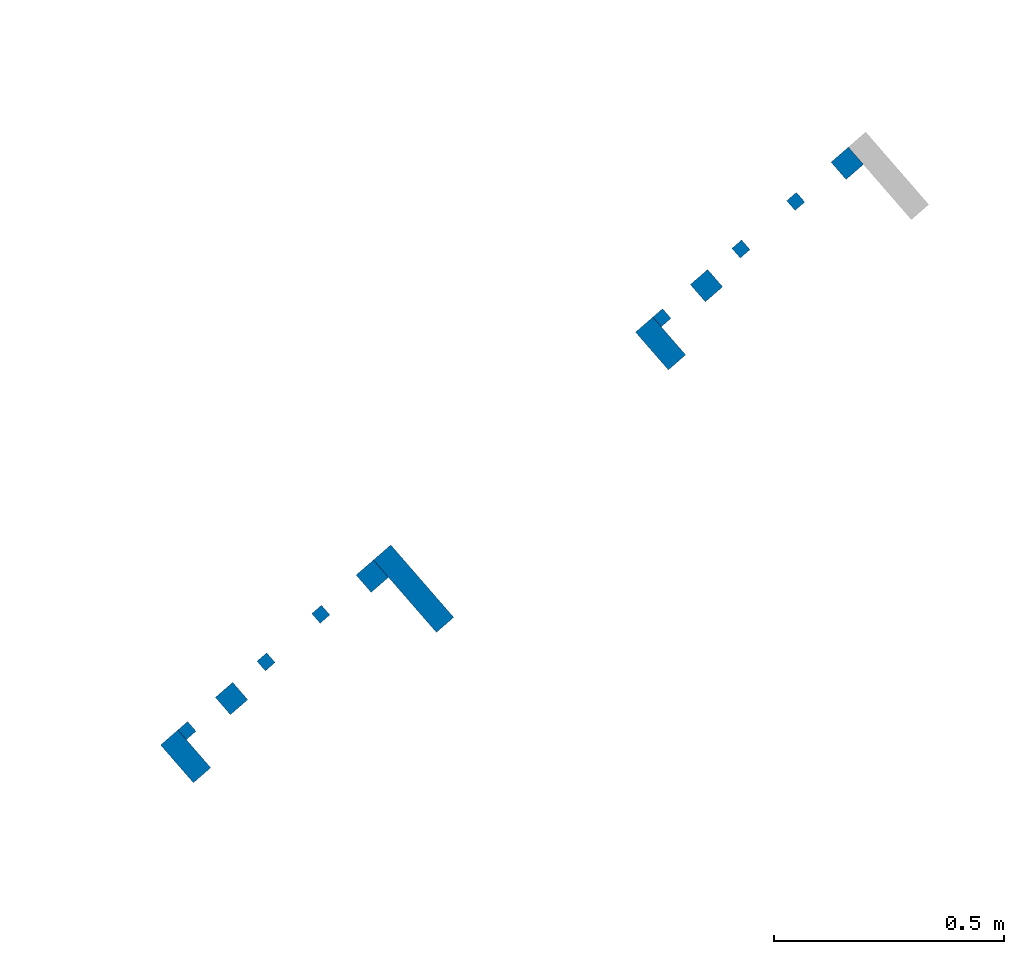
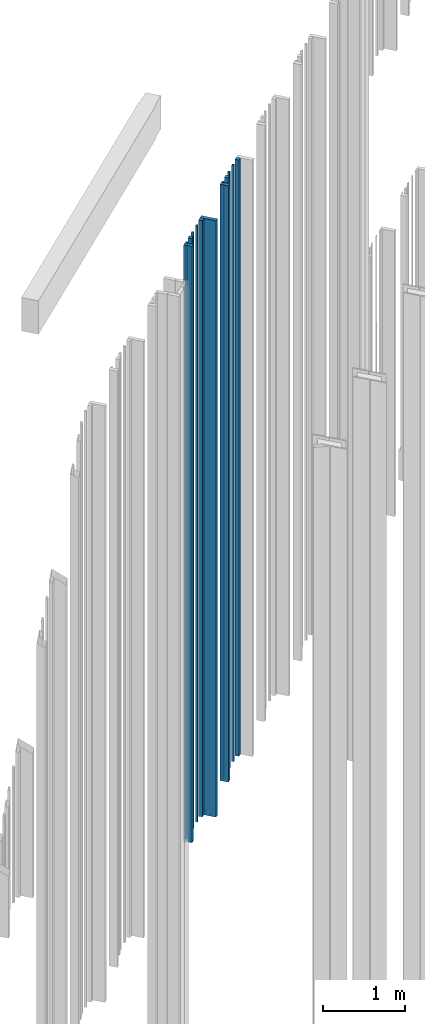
# One storey, part 247 of 390: 13 walls.
"""IFC2X3 building model written with IfcOpenShell, lengths in millimetres."""

from ifc_helpers import new_model, entity, si_unit, converted_unit, derived_unit, money_unit, direction, frame, origin_with_axes, place, context, subcontext, project, spatial, faceted_brep, material, type_object, element, save


model = new_model("IFC2X3")

# Units and contexts
model_context = context("Model", 3, precision=1e-05, world=origin_with_axes(), true_north=direction((0.0, 1.0)))
body_context = subcontext(model_context, "Body", "Model", "MODEL_VIEW")
ifc_project = project(units=[si_unit("LENGTHUNIT", "METRE", prefix="MILLI"), si_unit("AREAUNIT", "SQUARE_METRE"), si_unit("VOLUMEUNIT", "CUBIC_METRE"), converted_unit("PLANEANGLEUNIT", "DEGREE", entity("IfcPlaneAngleMeasure", 0.0174532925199), si_unit("PLANEANGLEUNIT", "RADIAN"), dimensions=[0, 0, 0, 0, 0, 0, 0]), si_unit("SOLIDANGLEUNIT", "STERADIAN"), money_unit("EUR"), converted_unit("TIMEUNIT", "Year", entity("IfcTimeMeasure", 31556926.0), si_unit("TIMEUNIT", "SECOND"), dimensions=[0, 0, 1, 0, 0, 0, 0]), si_unit("MASSUNIT", "GRAM", prefix="KILO"), si_unit("THERMODYNAMICTEMPERATUREUNIT", "DEGREE_CELSIUS"), si_unit("LUMINOUSINTENSITYUNIT", "LUMEN"), si_unit("ENERGYUNIT", "JOULE", prefix="MEGA"), derived_unit("THERMALCONDUCTANCEUNIT", [(si_unit("POWERUNIT", "WATT"), 1), (si_unit("LENGTHUNIT", "METRE"), -1), (si_unit("THERMODYNAMICTEMPERATUREUNIT", "KELVIN"), -1)]), derived_unit("SPECIFICHEATCAPACITYUNIT", [(si_unit("ENERGYUNIT", "JOULE"), 1), (si_unit("MASSUNIT", "GRAM", prefix="KILO"), -1), (si_unit("THERMODYNAMICTEMPERATUREUNIT", "KELVIN"), -1)]), derived_unit("MASSDENSITYUNIT", [(si_unit("MASSUNIT", "GRAM", prefix="KILO"), 1), (si_unit("VOLUMEUNIT", "CUBIC_METRE"), -1)])], contexts=[model_context])

# Site, building, storey
site_placement = place(None, origin_with_axes())
site = spatial("IfcSite", under=ifc_project, at=site_placement, Name="Site", CompositionType="ELEMENT")
building_placement = place(site_placement, origin_with_axes())
building = spatial("IfcBuilding", under=site, at=building_placement, Name="Building", CompositionType="ELEMENT")
storey_placement = place(building_placement, origin_with_axes())
storey = spatial("IfcBuildingStorey", under=building, at=storey_placement, Name="1 korrus", CompositionType="ELEMENT", Elevation=0.0)

# Walls
ifc_material = material(Name="Site specified")
wall_type = type_object("IfcWallType", Name="Puitfassaadi ribistik", PredefinedType="NOTDEFINED")
for number, where, z_axis, x_axis, name in (
    (1, (159939.758675, 83678.7028631, 935.000018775), (0.0, 0.0, 1.0), (-0.754709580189, -0.65605902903, 0.0), "Site specified"),
    (2, (159767.684891, 83529.1214045, 935.000018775), (0.0, 0.0, 1.0), (-0.754709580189, -0.65605902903, 0.0), "Site specified"),
):
    element("IfcWall", number, at=place(storey_placement, frame(where, z_axis=z_axis, x_axis=x_axis)), inside=storey, type_object=wall_type, material=ifc_material, Name=name, context=body_context, shape_type="Brep", body=[
        faceted_brep([(-14.0, -14.0, 8929.99998122), (-14.0, -14.0, 0.0), (14.0, -14.0, 0.0), (14.0, -14.0, 8929.99998122), (-14.0, 14.0, 8929.99998122), (-14.0, 14.0, 0.0), (14.0, 14.0, 0.0), (14.0, 14.0, 8929.99998122)], [[[0, 1, 2, 3]], [[4, 5, 1, 0]], [[2, 1, 5, 6]], [[3, 2, 6, 7]], [[4, 0, 3, 7]], [[7, 6, 5, 4]]]),
    ])
wall_1_placement = place(storey_placement, frame((159764.821608, 83472.9693644, 935.000018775), z_axis=(0.0, 0.0, 1.0), x_axis=(-0.754709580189, -0.65605902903, 0.0)))
element("IfcWall", 3, at=wall_1_placement, inside=storey, type_object=wall_type, material=ifc_material, Name="Site specified", context=body_context, shape_type="Brep", body=[
    faceted_brep([(-25.0, -54.5, 8929.99998122), (-25.0, -54.5, 0.0), (25.0, -54.5, 0.0), (25.0, -54.5, 8929.99998122), (-25.0, 54.5, 8929.99998122), (-25.0, 54.5, 0.0), (25.0, 54.5, 0.0), (25.0, 54.5, 8929.99998122)], [[[0, 1, 2, 3]], [[4, 5, 1, 0]], [[2, 1, 5, 6]], [[3, 2, 6, 7]], [[4, 0, 3, 7]], [[7, 6, 5, 4]]]),
])
for number, where, z_axis, x_axis, name in (
    (4, (160171.12407, 83865.2505894, 935.000018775), (0.0, 0.0, 1.0), (-0.754709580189, -0.65605902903, 0.0), "Site specified"),
    (5, (159864.71198, 83598.8906236, 935.000018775), (0.0, 0.0, 1.0), (-0.754709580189, -0.65605902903, 0.0), "Site specified"),
):
    element("IfcWall", number, at=place(storey_placement, frame(where, z_axis=z_axis, x_axis=x_axis)), inside=storey, type_object=wall_type, material=ifc_material, Name=name, context=body_context, shape_type="Brep", body=[
        faceted_brep([(-25.0, -25.0, 8929.99998122), (-25.0, -25.0, 0.0), (25.0, -25.0, 0.0), (25.0, -25.0, 8929.99998122), (-25.0, 25.0, 8929.99998122), (-25.0, 25.0, 0.0), (25.0, 25.0, 0.0), (25.0, 25.0, 8929.99998122)], [[[0, 1, 2, 3]], [[4, 5, 1, 0]], [[2, 1, 5, 6]], [[3, 2, 6, 7]], [[4, 0, 3, 7]], [[7, 6, 5, 4]]]),
    ])
wall_2_placement = place(storey_placement, frame((159227.064117, 82939.2532594, 935.000018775), z_axis=(0.0, 0.0, 1.0), x_axis=(-0.754709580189, -0.65605902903, 0.0)))
element("IfcWall", 6, at=wall_2_placement, inside=storey, type_object=wall_type, material=ifc_material, Name="Site specified", context=body_context, shape_type="Brep", body=[
    faceted_brep([(-25.0, -104.5, 8929.99998122), (-25.0, -104.5, 0.0), (25.0, -104.5, 0.0), (25.0, -104.5, 8929.99998122), (-25.0, 104.5, 8929.99998122), (-25.0, 104.5, 0.0), (25.0, 104.5, 0.0), (25.0, 104.5, 8929.99998122)], [[[0, 1, 2, 3]], [[4, 5, 1, 0]], [[2, 1, 5, 6]], [[3, 2, 6, 7]], [[4, 0, 3, 7]], [[7, 6, 5, 4]]]),
])
for number, where, z_axis, x_axis, name in (
    (7, (160059.002789, 83782.3601897, 935.000018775), (0.0, 0.0, 1.0), (-0.754709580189, -0.65605902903, 0.0), "Site specified"),
    (8, (159025.050664, 82883.5593199, 935.000018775), (0.0, 0.0, 1.0), (-0.754709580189, -0.65605902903, 0.0), "Site specified"),
):
    element("IfcWall", number, at=place(storey_placement, frame(where, z_axis=z_axis, x_axis=x_axis)), inside=storey, type_object=wall_type, material=ifc_material, Name=name, context=body_context, shape_type="Brep", body=[
        faceted_brep([(-14.0, -14.0, 8929.99998122), (-14.0, -14.0, 0.0), (14.0, -14.0, 0.0), (14.0, -14.0, 8929.99998122), (-14.0, 14.0, 8929.99998122), (-14.0, 14.0, 0.0), (14.0, 14.0, 0.0), (14.0, 14.0, 8929.99998122)], [[[0, 1, 2, 3]], [[4, 5, 1, 0]], [[2, 1, 5, 6]], [[3, 2, 6, 7]], [[4, 0, 3, 7]], [[7, 6, 5, 4]]]),
    ])
for number, where, z_axis, x_axis, name in (
    (9, (158830.759855, 82700.0897538, 935.000018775), (0.0, 0.0, 1.0), (-0.754709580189, -0.65605902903, 0.0), "Site specified"),
    (10, (159137.171945, 82966.4497196, 935.000018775), (0.0, 0.0, 1.0), (-0.754709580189, -0.65605902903, 0.0), "Site specified"),
):
    element("IfcWall", number, at=place(storey_placement, frame(where, z_axis=z_axis, x_axis=x_axis)), inside=storey, type_object=wall_type, material=ifc_material, Name=name, context=body_context, shape_type="Brep", body=[
        faceted_brep([(-25.0, -25.0, 8929.99998122), (-25.0, -25.0, 0.0), (25.0, -25.0, 0.0), (25.0, -25.0, 8929.99998122), (-25.0, 25.0, 8929.99998122), (-25.0, 25.0, 0.0), (25.0, 25.0, 0.0), (25.0, 25.0, 8929.99998122)], [[[0, 1, 2, 3]], [[4, 5, 1, 0]], [[2, 1, 5, 6]], [[3, 2, 6, 7]], [[4, 0, 3, 7]], [[7, 6, 5, 4]]]),
    ])
wall_3_placement = place(storey_placement, frame((158905.80655, 82779.9019933, 935.000018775), z_axis=(0.0, 0.0, 1.0), x_axis=(-0.754709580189, -0.65605902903, 0.0)))
element("IfcWall", 11, at=wall_3_placement, inside=storey, type_object=wall_type, material=ifc_material, Name="Site specified", context=body_context, shape_type="Brep", body=[
    faceted_brep([(-14.0, -14.0, 8929.99998122), (-14.0, -14.0, 0.0), (14.0, -14.0, 0.0), (14.0, -14.0, 8929.99998122), (-14.0, 14.0, 8929.99998122), (-14.0, 14.0, 0.0), (14.0, 14.0, 0.0), (14.0, 14.0, 8929.99998122)], [[[0, 1, 2, 3]], [[4, 5, 1, 0]], [[2, 1, 5, 6]], [[3, 2, 6, 7]], [[4, 0, 3, 7]], [[7, 6, 5, 4]]]),
])
wall_4_placement = place(storey_placement, frame((158730.869483, 82574.1684945, 935.000018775), z_axis=(0.0, 0.0, 1.0), x_axis=(-0.754709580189, -0.65605902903, 0.0)))
element("IfcWall", 12, at=wall_4_placement, inside=storey, type_object=wall_type, material=ifc_material, Name="Site specified", context=body_context, shape_type="Brep", body=[
    faceted_brep([(-25.0, -54.5, 8929.99998122), (-25.0, -54.5, 0.0), (25.0, -54.5, 0.0), (25.0, -54.5, 8929.99998122), (-25.0, 54.5, 8929.99998122), (-25.0, 54.5, 0.0), (25.0, 54.5, 0.0), (25.0, 54.5, 8929.99998122)], [[[0, 1, 2, 3]], [[4, 5, 1, 0]], [[2, 1, 5, 6]], [[3, 2, 6, 7]], [[4, 0, 3, 7]], [[7, 6, 5, 4]]]),
])
wall_5_placement = place(storey_placement, frame((158733.732766, 82630.3205347, 935.000018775), z_axis=(0.0, 0.0, 1.0), x_axis=(-0.754709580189, -0.65605902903, 0.0)))
element("IfcWall", 13, at=wall_5_placement, inside=storey, type_object=wall_type, material=ifc_material, Name="Site specified", context=body_context, shape_type="Brep", body=[
    faceted_brep([(-14.0, -14.0, 8929.99998122), (-14.0, -14.0, 0.0), (14.0, -14.0, 0.0), (14.0, -14.0, 8929.99998122), (-14.0, 14.0, 8929.99998122), (-14.0, 14.0, 0.0), (14.0, 14.0, 0.0), (14.0, 14.0, 8929.99998122)], [[[0, 1, 2, 3]], [[4, 5, 1, 0]], [[2, 1, 5, 6]], [[3, 2, 6, 7]], [[4, 0, 3, 7]], [[7, 6, 5, 4]]]),
])

save(model, "model.ifc")
